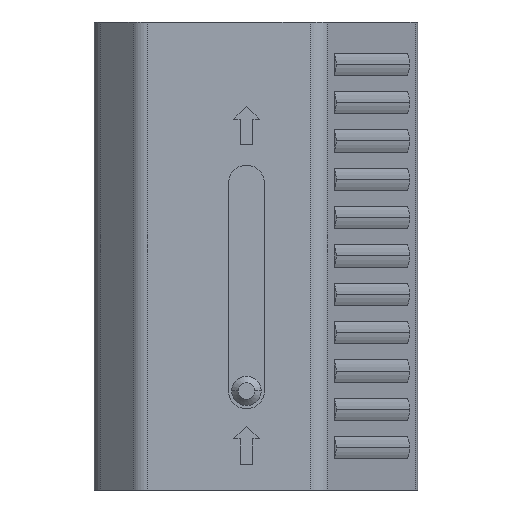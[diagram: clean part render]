
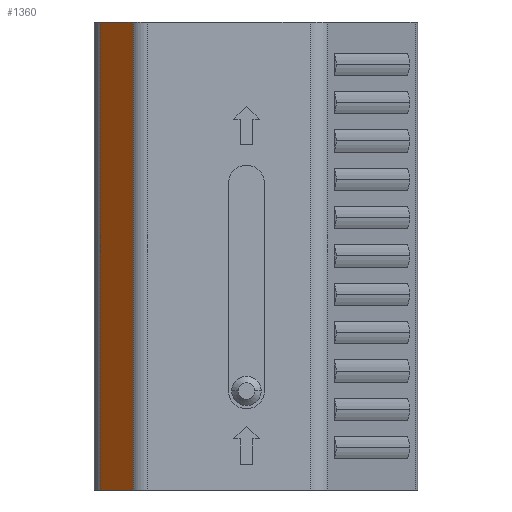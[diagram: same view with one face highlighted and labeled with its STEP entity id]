
A CAD part, left-side view. The second image highlights one B-rep face of the part: STEP entity #1360.
In plain terms, the highlighted planar face has unit normal (-0.707, 0.707, 0).
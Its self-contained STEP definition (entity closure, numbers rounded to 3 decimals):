
#87 = VERTEX_POINT ( 'NONE', #2303 ) ;
#181 = CARTESIAN_POINT ( 'NONE',  ( -4.459, 11.441, 0. ) ) ;
#304 = EDGE_CURVE ( 'NONE', #3419, #87, #3724, .T. ) ;
#366 = CARTESIAN_POINT ( 'NONE',  ( -4.459, 11.441, 36.6 ) ) ;
#450 = CARTESIAN_POINT ( 'NONE',  ( -7.037, 8.863, 36.6 ) ) ;
#931 = LINE ( 'NONE', #3946, #3146 ) ;
#1101 = EDGE_LOOP ( 'NONE', ( #3457, #2426, #1944, #2519 ) ) ;
#1335 = DIRECTION ( 'NONE',  ( 0.707, -0.707, 0. ) ) ;
#1360 = ADVANCED_FACE ( 'NONE', ( #1687 ), #3914, .F. ) ;
#1380 = VECTOR ( 'NONE', #3343, 1000. ) ;
#1687 = FACE_OUTER_BOUND ( 'NONE', #1101, .T. ) ;
#1903 = CARTESIAN_POINT ( 'NONE',  ( -7.037, 8.863, 36.6 ) ) ;
#1944 = ORIENTED_EDGE ( 'NONE', *, *, #2530, .F. ) ;
#2019 = VECTOR ( 'NONE', #2179, 1000. ) ;
#2179 = DIRECTION ( 'NONE',  ( -0.707, -0.707, 0. ) ) ;
#2303 = CARTESIAN_POINT ( 'NONE',  ( -7.037, 8.863, 0. ) ) ;
#2426 = ORIENTED_EDGE ( 'NONE', *, *, #304, .F. ) ;
#2479 = AXIS2_PLACEMENT_3D ( 'NONE', #3156, #1335, #3185 ) ;
#2519 = ORIENTED_EDGE ( 'NONE', *, *, #4497, .T. ) ;
#2530 = EDGE_CURVE ( 'NONE', #4391, #3419, #2951, .T. ) ;
#2659 = DIRECTION ( 'NONE',  ( 0., 0., -1. ) ) ;
#2951 = LINE ( 'NONE', #450, #2019 ) ;
#3146 = VECTOR ( 'NONE', #3965, 1000. ) ;
#3156 = CARTESIAN_POINT ( 'NONE',  ( -7.037, 8.863, 36.6 ) ) ;
#3185 = DIRECTION ( 'NONE',  ( 0.707, 0.707, 0. ) ) ;
#3343 = DIRECTION ( 'NONE',  ( 0., 0., -1. ) ) ;
#3419 = VERTEX_POINT ( 'NONE', #4484 ) ;
#3457 = ORIENTED_EDGE ( 'NONE', *, *, #4714, .T. ) ;
#3523 = CARTESIAN_POINT ( 'NONE',  ( -4.459, 11.441, 36.6 ) ) ;
#3553 = VECTOR ( 'NONE', #2659, 1000. ) ;
#3555 = VERTEX_POINT ( 'NONE', #181 ) ;
#3724 = LINE ( 'NONE', #1903, #3553 ) ;
#3914 = PLANE ( 'NONE',  #2479 ) ;
#3946 = CARTESIAN_POINT ( 'NONE',  ( -7.037, 8.863, 0. ) ) ;
#3965 = DIRECTION ( 'NONE',  ( -0.707, -0.707, 0. ) ) ;
#4388 = LINE ( 'NONE', #366, #1380 ) ;
#4391 = VERTEX_POINT ( 'NONE', #3523 ) ;
#4484 = CARTESIAN_POINT ( 'NONE',  ( -7.037, 8.863, 36.6 ) ) ;
#4497 = EDGE_CURVE ( 'NONE', #4391, #3555, #4388, .T. ) ;
#4714 = EDGE_CURVE ( 'NONE', #3555, #87, #931, .T. ) ;
